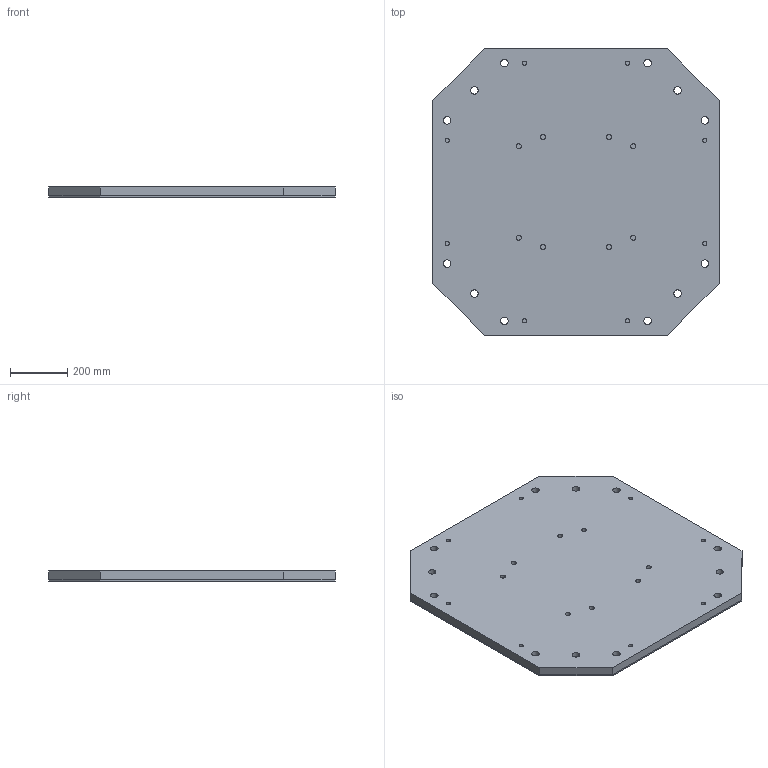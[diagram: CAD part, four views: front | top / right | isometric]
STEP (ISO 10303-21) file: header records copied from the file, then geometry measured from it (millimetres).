
FILE_DESCRIPTION (( 'STEP AP214' ), '1' );
FILE_NAME ('Grundplatte_1000_133920~a.STEP', '2016-07-12T08:38:39', ( '-' ), ( 'Yaskawa Europe GmbH' ), 'SwSTEP 2.0', 'SolidWorks 2016', '' );
FILE_SCHEMA (( 'AUTOMOTIVE_DESIGN' ));
Length unit declared in the file: millimetre
Products named in the file (1): Grundplatte_1000_133920~a
Bounding box: 1000 x 1000 x 35 mm (x, y, z)
Surface area: 2918309.5 mm2 (no closed solid volume)
Topology: 0 solids, 2 shells, 101 faces, 294 edges, 196 vertices
Faces by surface type: cylinder 82, plane 19
Entity records: 3954 total; most frequent: DIRECTION 662, CARTESIAN_POINT 592, ORIENTED_EDGE 554, EDGE_CURVE 294, AXIS2_PLACEMENT_3D 266, VERTEX_POINT 196, EDGE_LOOP 170, CIRCLE 164
